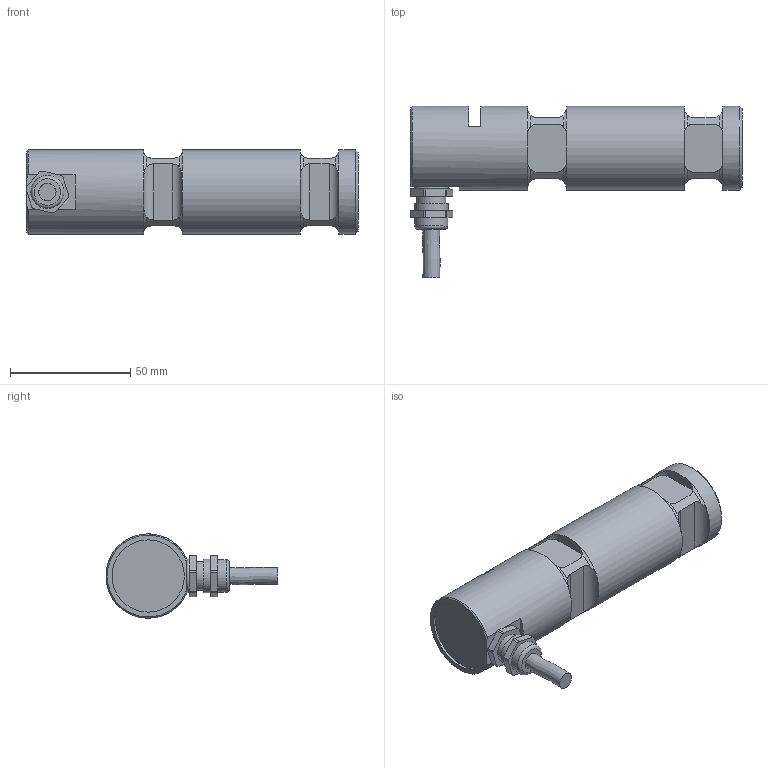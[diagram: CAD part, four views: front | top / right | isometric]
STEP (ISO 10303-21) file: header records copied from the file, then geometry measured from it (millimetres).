
FILE_DESCRIPTION(/* description */ ('Alibre Inc.'),/* implementation_level */ '2;1');
FILE_NAME(/* name */ 'export-9B7675C8-D271-4B5F-851D-ED914B529E49',/* time_stamp */ '2025-12-11T12:48:26+01:00',/* author */ (''),/* organization */ (''),/* preprocessor_version */ 'ST-DEVELOPER v17',/* originating_system */ 'Alibre',/* authorisation */ '');
FILE_SCHEMA (('CONFIG_CONTROL_DESIGN'));
Length unit declared in the file: centimetre
Products named in the file (6): ID_1
Bounding box: 137.86 x 71.41 x 35 mm (x, y, z)
Volume: 123325.3 mm3; surface area: 21259.7 mm2
Topology: 4 solids, 4 shells, 138 faces, 334 edges, 210 vertices
Faces by surface type: plane 62, cylinder 54, torus 18, cone 3, bspline 1
Full cylindrical faces by diameter (mm): 7 x1, 10.5 x1, 12 x2, 13.7 x1, 14 x1, 30 x1, 35 x3
Entity records: 4688 total; most frequent: CARTESIAN_POINT 1417, ORIENTED_EDGE 632, DIRECTION 402, EDGE_CURVE 316, VERTEX_POINT 207, AXIS2_PLACEMENT_3D 164, FACE_BOUND 161, EDGE_LOOP 160
